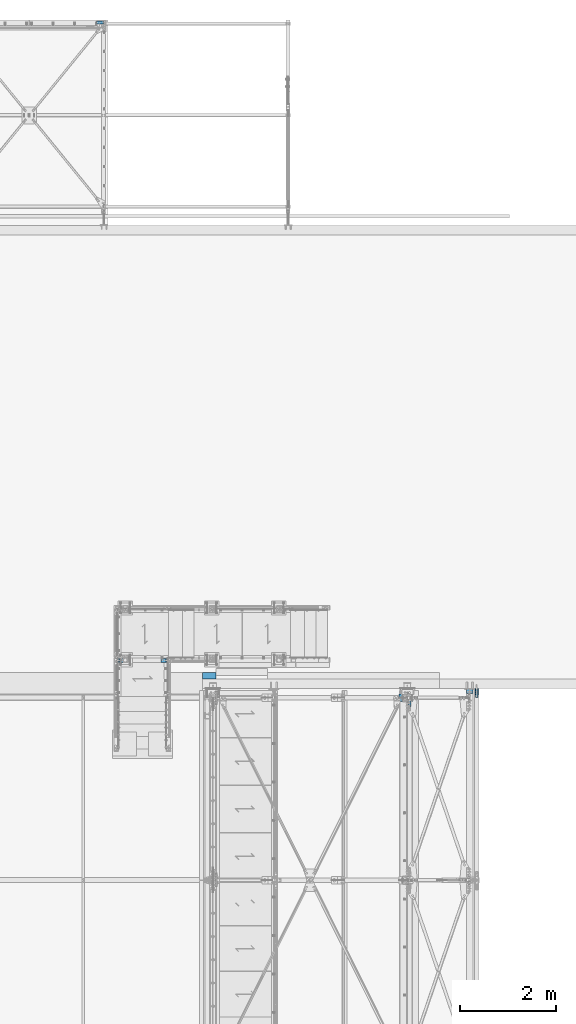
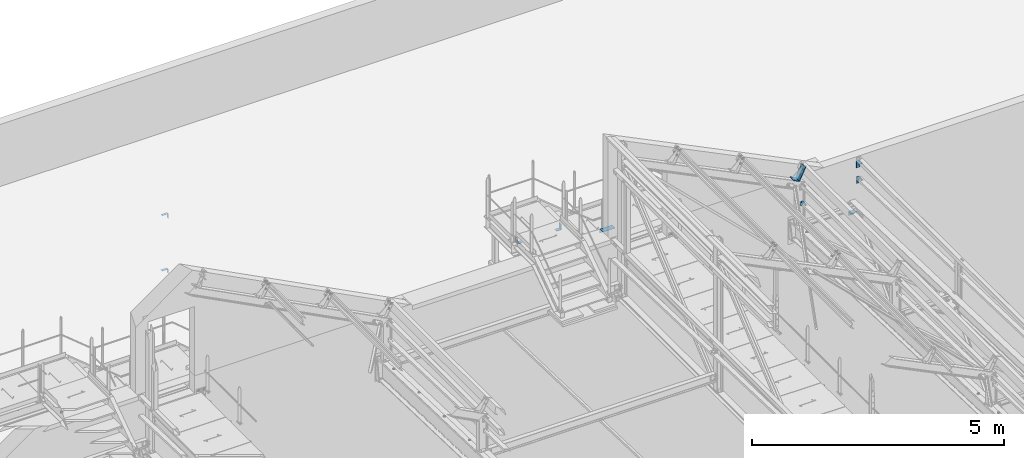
# One storey, part 362 of 362: 10 beams, 10 elements without a shape of their own.
"""IFC2X3 building model written with IfcOpenShell, lengths in millimetres."""

from ifc_helpers import new_model, si_unit, frame, origin_with_axes, place, context, subcontext, project, spatial, faceted_brep, material, type_object, element, aggregate, save


model = new_model("IFC2X3")

# Units and contexts
model_context = context("Model", 3, precision=1e-05, world=origin_with_axes())
body_context = subcontext(model_context, "Body", "Model", "MODEL_VIEW")
ifc_project = project(units=[si_unit("LENGTHUNIT", "METRE", prefix="MILLI"), si_unit("AREAUNIT", "SQUARE_METRE"), si_unit("VOLUMEUNIT", "CUBIC_METRE"), si_unit("MASSUNIT", "GRAM", prefix="KILO"), si_unit("TIMEUNIT", "SECOND"), si_unit("PLANEANGLEUNIT", "RADIAN"), si_unit("SOLIDANGLEUNIT", "STERADIAN"), si_unit("THERMODYNAMICTEMPERATUREUNIT", "DEGREE_CELSIUS"), si_unit("LUMINOUSINTENSITYUNIT", "LUMEN")], contexts=[model_context])

# Site, building, storey
site_placement = place(None, origin_with_axes())
site = spatial("IfcSite", under=ifc_project, at=site_placement, Name="Undefined", CompositionType="ELEMENT")
building_placement = place(site_placement, origin_with_axes())
building = spatial("IfcBuilding", under=site, at=building_placement, Name="Undefined", CompositionType="ELEMENT")
storey_placement = place(building_placement, origin_with_axes())
storey = spatial("IfcBuildingStorey", under=building, at=storey_placement, Name="Undefined", CompositionType="ELEMENT", Elevation=0.0)

# Assembly, beam
assembly_1_placement = place(storey_placement, origin_with_axes())
assembly_1 = element("IfcElementAssembly", 1, at=assembly_1_placement, inside=storey, AssemblyPlace="NOTDEFINED", PredefinedType="NOTDEFINED")
ifc_material = material(Name="Undefined/S235-E24")
beam_type_1 = type_object("IfcBeamType", Name="PL1*283", PredefinedType="NOTDEFINED")
beam_1_placement = place(assembly_1_placement, frame((34204.9300035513, 15725.5518131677, 8490.00255378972), z_axis=(-1.0, 0.0, 0.0), x_axis=(0.0, -0.104503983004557, 0.994524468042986)))
beam_1 = element("IfcBeam", 2, at=beam_1_placement, type_object=beam_type_1, material=ifc_material, Name="COIFFE", ObjectType="PL1*283", context=body_context, shape_type="Brep", body=[
    faceted_brep([(1.21872290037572e-10, -0.5, -141.5), (1.21872290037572e-10, -0.5, 141.5), (-1.24600774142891e-10, 0.5, 141.5), (-1.24600774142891e-10, 0.5, -141.5), (9.99994928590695, 0.500000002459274, 141.5), (9.99994928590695, 0.500000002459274, -141.5), (10.0523447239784, -0.499999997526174, -141.5), (10.0523447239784, -0.499999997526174, 141.5), (99.5071476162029, 9.90535807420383, 141.5), (99.5071476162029, 9.90535807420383, -141.5), (98.6389784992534, 8.80862575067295, -141.5), (98.6389784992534, 8.80862575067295, 141.5), (116.598834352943, -124.046522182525, 141.5), (116.598834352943, -124.046522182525, -141.5), (115.606876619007, -124.173091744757, 141.5), (115.606876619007, -124.173091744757, -141.5)], [[[0, 1, 2, 3]], [[3, 2, 4, 5]], [[1, 0, 6, 7]], [[5, 4, 8, 9]], [[7, 6, 10, 11]], [[9, 8, 12, 13]], [[8, 4, 2, 1, 7, 11, 14, 12]], [[11, 10, 15, 14]], [[10, 6, 0, 3, 5, 9, 13, 15]], [[14, 15, 13, 12]]]),
])
aggregate(assembly_1, [beam_1])

assembly_2_placement = place(storey_placement, origin_with_axes())
assembly_2 = element("IfcElementAssembly", 3, at=assembly_2_placement, inside=storey, AssemblyPlace="NOTDEFINED", PredefinedType="NOTDEFINED")
beam_type_2 = type_object("IfcBeamType", Name="PL5*60", PredefinedType="NOTDEFINED")
beam_2_placement = place(assembly_2_placement, frame((31997.4999712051, 29270.0000006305, 36.0000005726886), z_axis=(0.0, 1.0, 0.0), x_axis=(0.0, 0.0, 1.0)))
beam_2 = element("IfcBeam", 4, at=beam_2_placement, type_object=beam_type_2, material=ifc_material, Name="ATTACHE", ObjectType="PL5*60", context=body_context, shape_type="Brep", body=[
    faceted_brep([(7.105427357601e-15, -2.5, -30.0), (0.0, -2.50000000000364, 29.9999999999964), (7.105427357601e-15, 2.49999999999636, 29.9999999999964), (7.105427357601e-15, 2.5, -30.0), (109.999999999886, 2.50000000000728, 29.9999999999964), (109.999999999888, 2.50000000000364, -30.0000000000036), (105.000000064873, -2.49999999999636, -30.0), (105.000000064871, -2.49999999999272, 30.0), (110.000001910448, -144.500029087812, 29.9999999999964), (110.000001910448, -144.500029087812, -30.0), (105.000001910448, -144.500029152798, 29.9999999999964), (105.000001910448, -144.500029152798, -30.0)], [[[0, 1, 2, 3]], [[3, 2, 4, 5]], [[1, 0, 6, 7]], [[5, 4, 8, 9]], [[4, 2, 1, 7, 10, 8]], [[7, 6, 11, 10]], [[6, 0, 3, 5, 9, 11]], [[10, 11, 9, 8]]]),
])
aggregate(assembly_2, [beam_2])

assembly_3_placement = place(storey_placement, origin_with_axes())
assembly_3 = element("IfcElementAssembly", 5, at=assembly_3_placement, inside=storey, AssemblyPlace="NOTDEFINED", PredefinedType="NOTDEFINED")
beam_3_placement = place(assembly_3_placement, frame((31997.4999712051, 29270.0000006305, 1376.00000057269), z_axis=(0.0, 1.0, 0.0), x_axis=(0.0, 0.0, 1.0)))
beam_3 = element("IfcBeam", 6, at=beam_3_placement, type_object=beam_type_2, material=ifc_material, Name="ATTACHE", ObjectType="PL5*60", context=body_context, shape_type="Brep", body=[
    faceted_brep([(7.105427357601e-15, -2.5, -30.0), (0.0, -2.50000000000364, 29.9999999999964), (7.105427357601e-15, 2.49999999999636, 29.9999999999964), (7.105427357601e-15, 2.5, -30.0), (109.999999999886, 2.50000000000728, 29.9999999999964), (109.999999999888, 2.50000000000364, -30.0000000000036), (105.000000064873, -2.49999999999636, -30.0), (105.000000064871, -2.49999999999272, 30.0), (110.000001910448, -144.500029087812, 29.9999999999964), (110.000001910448, -144.500029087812, -30.0), (105.000001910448, -144.500029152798, 29.9999999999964), (105.000001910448, -144.500029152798, -30.0)], [[[0, 1, 2, 3]], [[3, 2, 4, 5]], [[1, 0, 6, 7]], [[5, 4, 8, 9]], [[4, 2, 1, 7, 10, 8]], [[7, 6, 11, 10]], [[6, 0, 3, 5, 9, 11]], [[10, 11, 9, 8]]]),
])
aggregate(assembly_3, [beam_3])

assembly_4_placement = place(storey_placement, origin_with_axes())
assembly_4 = element("IfcElementAssembly", 7, at=assembly_4_placement, inside=storey, AssemblyPlace="NOTDEFINED", PredefinedType="NOTDEFINED")
beam_type_3 = type_object("IfcBeamType", Name="PL8*80", PredefinedType="NOTDEFINED")
beam_4_placement = place(assembly_4_placement, frame((33200.0050724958, 15979.9996684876, 8704.0), z_axis=(0.0, 1.0, 0.0), x_axis=(1.0, 0.0, 0.0)))
beam_4 = element("IfcBeam", 8, at=beam_4_placement, type_object=beam_type_3, material=ifc_material, Name="ATTACHE", ObjectType="PL8*80", context=body_context, shape_type="Brep", body=[
    faceted_brep([(0.0, -4.0, -40.0), (0.0, -4.0, 40.0), (0.0, 4.0, 40.0), (0.0, 4.0, -40.0), (109.996772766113, 4.0, 40.0), (109.996772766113, 4.0, -40.0), (101.996772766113, -4.0, -40.0), (101.996772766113, -4.0, 40.0), (109.996772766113, -136.0, 40.0), (109.996772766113, -136.0, -40.0), (101.996772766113, -136.0, 40.0), (101.996772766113, -136.0, -40.0)], [[[0, 1, 2, 3]], [[3, 2, 4, 5]], [[1, 0, 6, 7]], [[5, 4, 8, 9]], [[4, 2, 1, 7, 10, 8]], [[7, 6, 11, 10]], [[6, 0, 3, 5, 9, 11]], [[10, 11, 9, 8]]]),
])
aggregate(assembly_4, [beam_4])

assembly_5_placement = place(storey_placement, origin_with_axes())
assembly_5 = element("IfcElementAssembly", 9, at=assembly_5_placement, inside=storey, AssemblyPlace="NOTDEFINED", PredefinedType="NOTDEFINED")
beam_5_placement = place(assembly_5_placement, frame((32420.0029591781, 15980.0036039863, 8704.0), z_axis=(0.0, 1.0, 0.0), x_axis=(-1.0, 0.0, 0.0)))
beam_5 = element("IfcBeam", 10, at=beam_5_placement, type_object=beam_type_3, material=ifc_material, Name="ATTACHE", ObjectType="PL8*80", context=body_context, shape_type="Brep", body=[
    faceted_brep([(0.0, -4.0, -40.0), (0.0, -4.0, 40.0), (0.0, 4.0, 40.0), (0.0, 4.0, -40.0), (101.996772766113, 4.0, 40.0), (101.996772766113, 4.0, -40.0), (109.996772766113, -4.0, -40.0), (109.996772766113, -4.0, 40.0), (101.996772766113, 136.0, 40.0), (101.996772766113, 136.0, -40.0), (109.996772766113, 136.0, 40.0), (109.996772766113, 136.0, -40.0)], [[[0, 1, 2, 3]], [[3, 2, 4, 5]], [[1, 0, 6, 7]], [[5, 4, 8, 9]], [[4, 2, 1, 7, 10, 8]], [[7, 6, 11, 10]], [[6, 0, 3, 5, 9, 11]], [[10, 11, 9, 8]]]),
])
aggregate(assembly_5, [beam_5])

assembly_6_placement = place(storey_placement, origin_with_axes())
assembly_6 = element("IfcElementAssembly", 11, at=assembly_6_placement, inside=storey, AssemblyPlace="NOTDEFINED", PredefinedType="NOTDEFINED")
beam_type_4 = type_object("IfcBeamType", Name="PL10*80", PredefinedType="NOTDEFINED")
beam_6_placement = place(assembly_6_placement, frame((39775.0029830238, 15385.0000000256, 8289.99702093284), z_axis=(1.0, 0.0, 0.0), x_axis=(0.0, 0.0, 1.0)))
beam_6 = element("IfcBeam", 12, at=beam_6_placement, type_object=beam_type_4, material=ifc_material, Name="ATTACHE", ObjectType="PL10*80", context=body_context, shape_type="Brep", body=[
    faceted_brep([(0.0, -5.0, -40.0), (0.0, -5.0, 40.0), (0.0, 5.0, 40.0), (0.0, 5.0, -40.0), (149.999999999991, 5.00000000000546, 40.0), (149.999999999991, 5.00000000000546, -40.0), (159.999999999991, -4.99999999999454, -40.0), (159.999999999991, -4.99999999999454, 40.0), (149.999999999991, 124.999999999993, 40.0), (149.999999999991, 124.999999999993, -40.0), (159.999999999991, 124.999999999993, 40.0), (159.999999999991, 124.999999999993, -40.0)], [[[0, 1, 2, 3]], [[3, 2, 4, 5]], [[1, 0, 6, 7]], [[5, 4, 8, 9]], [[4, 2, 1, 7, 10, 8]], [[7, 6, 11, 10]], [[6, 0, 3, 5, 9, 11]], [[10, 11, 9, 8]]]),
])
aggregate(assembly_6, [beam_6])

assembly_7_placement = place(storey_placement, origin_with_axes())
assembly_7 = element("IfcElementAssembly", 13, at=assembly_7_placement, inside=storey, Name="PANNE SHED", AssemblyPlace="NOTDEFINED", PredefinedType="NOTDEFINED")
beam_type_5 = type_object("IfcBeamType", Name="PL10*160", PredefinedType="NOTDEFINED")
beam_7_placement = place(assembly_7_placement, frame((38429.877263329, 15200.0000408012, 8917.78995083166), z_axis=(0.0, -1.0, 0.0), x_axis=(-0.441220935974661, 0.0, -0.89739850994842)))
beam_7 = element("IfcBeam", 14, at=beam_7_placement, type_object=beam_type_5, material=ifc_material, Name="PANNE SHED", ObjectType="PL10*160", context=body_context, shape_type="Brep", body=[
    faceted_brep([(5.07934601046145e-08, -5.00000000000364, -80.0), (5.081164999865e-08, -5.0, 80.0), (-5.08007360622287e-08, 5.0, 79.9999999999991), (-5.0815287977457e-08, 4.99999999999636, -80.0000000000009), (329.999999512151, 5.00000335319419, 79.99999999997), (329.999999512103, 5.00000335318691, -80.00000000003), (319.999998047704, -4.9999967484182, -80.0000000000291), (319.999998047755, -4.99999674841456, 79.9999999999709), (329.999977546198, -144.999983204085, 79.9999999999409), (329.999977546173, -144.999983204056, -80.0000000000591), (319.999977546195, -144.999981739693, 79.9999999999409), (319.999977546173, -144.999981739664, -80.0000000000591)], [[[0, 1, 2, 3]], [[3, 2, 4, 5]], [[1, 0, 6, 7]], [[5, 4, 8, 9]], [[4, 2, 1, 7, 10, 8]], [[7, 6, 11, 10]], [[6, 0, 3, 5, 9, 11]], [[10, 11, 9, 8]]]),
])
aggregate(assembly_7, [beam_7])

assembly_8_placement = place(storey_placement, origin_with_axes())
assembly_8 = element("IfcElementAssembly", 15, at=assembly_8_placement, inside=storey, AssemblyPlace="NOTDEFINED", PredefinedType="NOTDEFINED")
beam_type_6 = type_object("IfcBeamType", Name="PL6*50", PredefinedType="NOTDEFINED")
beam_8_placement = place(assembly_8_placement, frame((39774.9999999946, 15208.4649914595, 8070.29717217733), z_axis=(1.0, 0.0, 0.0), x_axis=(0.0, 0.99950644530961, -0.0314144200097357)))
beam_8 = element("IfcBeam", 16, at=beam_8_placement, type_object=beam_type_6, material=ifc_material, Name="ATTACHE", ObjectType="PL6*50", context=body_context, shape_type="Brep", body=[
    faceted_brep([(-5.16229192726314e-09, -3.0, -25.0), (-5.16229192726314e-09, -3.0, 25.0), (5.16229192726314e-09, 3.0, 25.0), (5.16229192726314e-09, 3.0, -25.0), (181.530360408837, 2.99999968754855, 25.0), (181.530360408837, 2.99999968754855, -25.0), (175.715977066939, -3.00000030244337, -25.0), (175.715977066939, -3.00000030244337, 25.0), (186.560119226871, -157.030978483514, 25.0), (186.560119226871, -157.030978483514, -25.0), (180.563080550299, -157.21946485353, 25.0), (180.563080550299, -157.21946485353, -25.0)], [[[0, 1, 2, 3]], [[3, 2, 4, 5]], [[1, 0, 6, 7]], [[5, 4, 8, 9]], [[4, 2, 1, 7, 10, 8]], [[7, 6, 11, 10]], [[6, 0, 3, 5, 9, 11]], [[10, 11, 9, 8]]]),
])
aggregate(assembly_8, [beam_8])

assembly_9_placement = place(storey_placement, origin_with_axes())
assembly_9 = element("IfcElementAssembly", 17, at=assembly_9_placement, inside=storey, AssemblyPlace="NOTDEFINED", PredefinedType="NOTDEFINED")
beam_9_placement = place(assembly_9_placement, frame((38380.0000000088, 15014.9649832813, 8076.38272820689), z_axis=(1.0, 0.0, 0.0), x_axis=(0.0, 0.99950644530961, -0.0314144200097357)))
beam_9 = element("IfcBeam", 18, at=beam_9_placement, type_object=beam_type_6, material=ifc_material, Name="ATTACHE", ObjectType="PL6*50", context=body_context, shape_type="Brep", body=[
    faceted_brep([(-5.16229192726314e-09, -3.0, -25.0), (-5.16229192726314e-09, -3.0, 25.0), (5.16229192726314e-09, 3.0, 25.0), (5.16229192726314e-09, 3.0, -25.0), (181.530360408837, 2.99999968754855, 25.0), (181.530360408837, 2.99999968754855, -25.0), (175.715977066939, -3.00000030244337, -25.0), (175.715977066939, -3.00000030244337, 25.0), (184.989399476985, -107.055656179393, 25.0), (184.989399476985, -107.055656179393, -25.0), (178.992360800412, -107.244142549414, 25.0), (178.992360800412, -107.244142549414, -25.0)], [[[0, 1, 2, 3]], [[3, 2, 4, 5]], [[1, 0, 6, 7]], [[5, 4, 8, 9]], [[4, 2, 1, 7, 10, 8]], [[7, 6, 11, 10]], [[6, 0, 3, 5, 9, 11]], [[10, 11, 9, 8]]]),
])
aggregate(assembly_9, [beam_9])

assembly_10_placement = place(storey_placement, origin_with_axes())
assembly_10 = element("IfcElementAssembly", 19, at=assembly_10_placement, inside=storey, AssemblyPlace="NOTDEFINED", PredefinedType="NOTDEFINED")
beam_type_7 = type_object("IfcBeamType", Name="PL10*135", PredefinedType="NOTDEFINED")
beam_10_placement = place(assembly_10_placement, frame((39630.000000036, 15385.0001182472, 7196.21647214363), z_axis=(-1.0, 0.0, 0.0), x_axis=(0.0, 0.0, 1.0)))
beam_10 = element("IfcBeam", 20, at=beam_10_placement, type_object=beam_type_7, material=ifc_material, Name="ATTACHE", ObjectType="PL10*135", context=body_context, shape_type="Brep", body=[
    faceted_brep([(0.0, -5.0, -67.5), (0.0, -5.0, 67.5), (0.0, 5.0, 67.5), (0.0, 5.0, -67.5), (100.000000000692, 5.0, 67.5), (100.000000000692, 5.0, -67.5), (90.3093253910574, -5.0, -67.5), (90.3093253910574, -5.0, 67.5), (103.141075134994, -94.9507751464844, 67.5), (103.141075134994, -94.9507751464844, -67.5), (93.1460095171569, -95.2648822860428, 67.5), (93.1460095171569, -95.2648822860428, -67.5)], [[[0, 1, 2, 3]], [[3, 2, 4, 5]], [[1, 0, 6, 7]], [[5, 4, 8, 9]], [[4, 2, 1, 7, 10, 8]], [[7, 6, 11, 10]], [[6, 0, 3, 5, 9, 11]], [[10, 11, 9, 8]]]),
])
aggregate(assembly_10, [beam_10])

save(model, "model.ifc")
